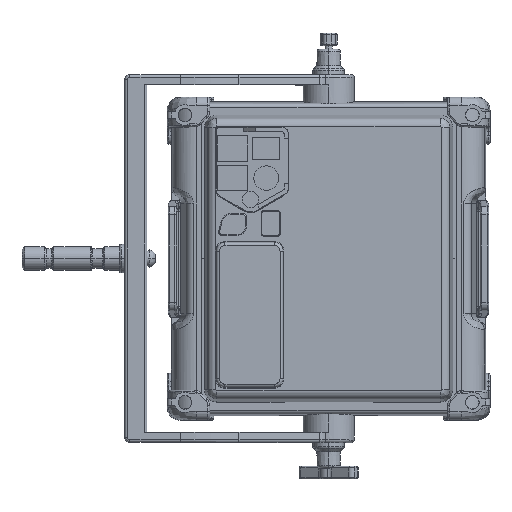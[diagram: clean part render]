
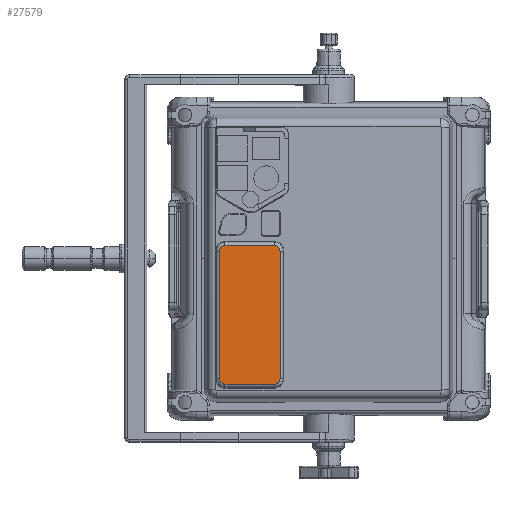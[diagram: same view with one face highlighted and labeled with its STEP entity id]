
A CAD part, top view. The second image highlights one B-rep face of the part: STEP entity #27579.
In plain terms, the highlighted planar face has unit normal (0, 0, 1).
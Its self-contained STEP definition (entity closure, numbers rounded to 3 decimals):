
#7922=CARTESIAN_POINT('',(-122.,-141.25,90.5));
#7923=DIRECTION('',(0.,0.,-1.));
#7924=DIRECTION('',(0.,-1.,0.));
#7925=AXIS2_PLACEMENT_3D('',#7922,#7923,#7924);
#7927=CARTESIAN_POINT('',(-122.,8.75,90.5));
#7928=DIRECTION('',(0.,0.,-1.));
#7929=DIRECTION('',(-1.,0.,0.));
#7930=AXIS2_PLACEMENT_3D('',#7927,#7928,#7929);
#7932=CARTESIAN_POINT('',(-64.,8.75,90.5));
#7933=DIRECTION('',(0.,0.,-1.));
#7934=DIRECTION('',(0.,1.,0.));
#7935=AXIS2_PLACEMENT_3D('',#7932,#7933,#7934);
#7937=CARTESIAN_POINT('',(-64.,-141.25,90.5));
#7938=DIRECTION('',(0.,0.,-1.));
#7939=DIRECTION('',(1.,0.,0.));
#7940=AXIS2_PLACEMENT_3D('',#7937,#7938,#7939);
#7957=DIRECTION('',(1.,0.,0.));
#7958=VECTOR('',#7957,58.);
#7959=CARTESIAN_POINT('',(-122.,-148.035,90.5));
#7960=LINE('',#7959,#7958);
#7980=DIRECTION('',(0.,1.,0.));
#7981=VECTOR('',#7980,150.);
#7982=CARTESIAN_POINT('',(-57.215,-141.25,90.5));
#7983=LINE('',#7982,#7981);
#8003=DIRECTION('',(-1.,0.,0.));
#8004=VECTOR('',#8003,58.);
#8005=CARTESIAN_POINT('',(-64.,15.535,90.5));
#8006=LINE('',#8005,#8004);
#8055=DIRECTION('',(0.,-1.,0.));
#8056=VECTOR('',#8055,150.);
#8057=CARTESIAN_POINT('',(-128.785,8.75,90.5));
#8058=LINE('',#8057,#8056);
#14538=CARTESIAN_POINT('',(-128.785,8.75,
90.5));
#14539=CARTESIAN_POINT('',(-122.,15.535,90.5));
#14540=VERTEX_POINT('',#14538);
#14541=VERTEX_POINT('',#14539);
#14542=CARTESIAN_POINT('',(-122.,-148.035,
90.5));
#14543=CARTESIAN_POINT('',(-128.785,-141.25,
90.5));
#14544=VERTEX_POINT('',#14542);
#14545=VERTEX_POINT('',#14543);
#14546=CARTESIAN_POINT('',(-64.,15.535,
90.5));
#14547=VERTEX_POINT('',#14546);
#14548=CARTESIAN_POINT('',(-57.215,8.75,
90.5));
#14549=VERTEX_POINT('',#14548);
#14550=CARTESIAN_POINT('',(-57.215,-141.25,90.5));
#14551=VERTEX_POINT('',#14550);
#14552=CARTESIAN_POINT('',(-64.,-148.035,
90.5));
#14553=VERTEX_POINT('',#14552);
#27557=CARTESIAN_POINT('',(0.,0.,90.5));
#27558=DIRECTION('',(0.,0.,1.));
#27559=DIRECTION('',(0.,-1.,0.));
#27560=AXIS2_PLACEMENT_3D('',#27557,#27558,#27559);
#27561=PLANE('',#27560);
#27563=ORIENTED_EDGE('',*,*,#27562,.T.);
#27565=ORIENTED_EDGE('',*,*,#27564,.F.);
#27566=ORIENTED_EDGE('',*,*,#27547,.T.);
#27568=ORIENTED_EDGE('',*,*,#27567,.F.);
#27570=ORIENTED_EDGE('',*,*,#27569,.T.);
#27572=ORIENTED_EDGE('',*,*,#27571,.F.);
#27574=ORIENTED_EDGE('',*,*,#27573,.T.);
#27576=ORIENTED_EDGE('',*,*,#27575,.F.);
#27577=EDGE_LOOP('',(#27563,#27565,#27566,#27568,#27570,#27572,#27574,#27576));
#27578=FACE_OUTER_BOUND('',#27577,.F.);
#27579=ADVANCED_FACE('',(#27578),#27561,.T.);
#7926=CIRCLE('',#7925,6.785);
#7931=CIRCLE('',#7930,6.785);
#7936=CIRCLE('',#7935,6.785);
#7941=CIRCLE('',#7940,6.785);
#27547=EDGE_CURVE('',#14540,#14541,#7931,.T.);
#27562=EDGE_CURVE('',#14544,#14545,#7926,.T.);
#27564=EDGE_CURVE('',#14540,#14545,#8058,.T.);
#27567=EDGE_CURVE('',#14547,#14541,#8006,.T.);
#27569=EDGE_CURVE('',#14547,#14549,#7936,.T.);
#27571=EDGE_CURVE('',#14551,#14549,#7983,.T.);
#27573=EDGE_CURVE('',#14551,#14553,#7941,.T.);
#27575=EDGE_CURVE('',#14544,#14553,#7960,.T.);
